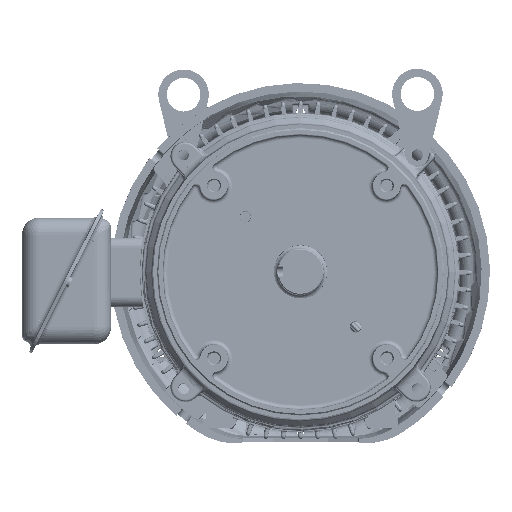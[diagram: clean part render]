
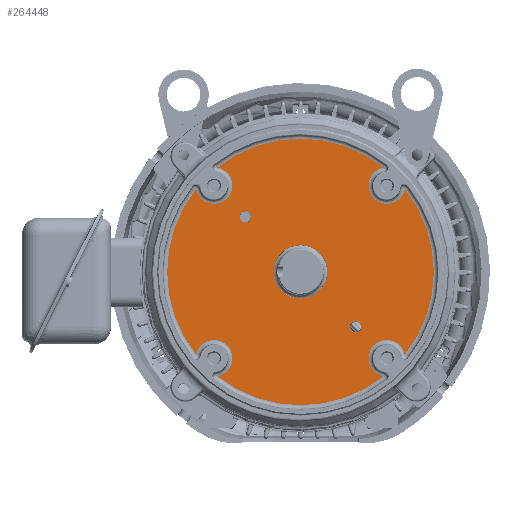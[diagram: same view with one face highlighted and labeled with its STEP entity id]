
A CAD part, top view. The second image highlights one B-rep face of the part: STEP entity #264448.
In plain terms, the highlighted planar face has unit normal (0, 0, 1) as drawn and (0, 0, -1) by its records, which use the part's own axes.
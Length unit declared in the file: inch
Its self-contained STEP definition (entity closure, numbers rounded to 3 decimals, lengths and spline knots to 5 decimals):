
#247599=CARTESIAN_POINT('',(-1.63518,-1.63518,-1.391));
#247600=DIRECTION('',(0.,0.,1.));
#247601=DIRECTION('',(-1.,0.,0.));
#247602=AXIS2_PLACEMENT_3D('',#247599,#247600,#247601);
#247604=CARTESIAN_POINT('',(-1.63518,-1.63518,-1.391));
#247605=DIRECTION('',(0.,0.,1.));
#247606=DIRECTION('',(1.,0.,0.));
#247607=AXIS2_PLACEMENT_3D('',#247604,#247605,#247606);
#247609=CARTESIAN_POINT('',(1.63518,1.63518,-1.391));
#247610=DIRECTION('',(0.,0.,1.));
#247611=DIRECTION('',(-1.,0.,0.));
#247612=AXIS2_PLACEMENT_3D('',#247609,#247610,#247611);
#247614=CARTESIAN_POINT('',(1.63518,1.63518,-1.391));
#247615=DIRECTION('',(0.,0.,1.));
#247616=DIRECTION('',(1.,0.,0.));
#247617=AXIS2_PLACEMENT_3D('',#247614,#247615,#247616);
#247619=CARTESIAN_POINT('',(0.,0.,-1.391));
#247620=DIRECTION('',(0.,0.,1.));
#247621=DIRECTION('',(-1.,0.,0.));
#247622=AXIS2_PLACEMENT_3D('',#247619,#247620,#247621);
#247624=CARTESIAN_POINT('',(0.,0.,-1.391));
#247625=DIRECTION('',(0.,0.,1.));
#247626=DIRECTION('',(1.,0.,0.));
#247627=AXIS2_PLACEMENT_3D('',#247624,#247625,#247626);
#247639=CARTESIAN_POINT('',(0.,0.,-1.391));
#247640=DIRECTION('',(0.,0.,-1.));
#247641=DIRECTION('',(-0.782,-0.623,0.));
#247642=AXIS2_PLACEMENT_3D('',#247639,#247640,#247641);
#252307=CARTESIAN_POINT('',(0.,0.,-1.391));
#252308=DIRECTION('',(0.,0.,-1.));
#252309=DIRECTION('',(-0.623,0.782,0.));
#252310=AXIS2_PLACEMENT_3D('',#252307,#252308,#252309);
#252387=CARTESIAN_POINT('',(-2.56326,2.56326,-1.391));
#252388=DIRECTION('',(0.,0.,1.));
#252389=DIRECTION('',(-0.983,-0.182,0.));
#252390=AXIS2_PLACEMENT_3D('',#252387,#252388,#252389);
#252407=CARTESIAN_POINT('',(2.56326,2.56326,-1.391));
#252408=DIRECTION('',(0.,0.,1.));
#252409=DIRECTION('',(-0.182,0.983,0.));
#252410=AXIS2_PLACEMENT_3D('',#252407,#252408,#252409);
#252457=CARTESIAN_POINT('',(0.,0.,-1.391));
#252458=DIRECTION('',(0.,0.,-1.));
#252459=DIRECTION('',(0.782,0.623,0.));
#252460=AXIS2_PLACEMENT_3D('',#252457,#252458,#252459);
#252507=CARTESIAN_POINT('',(2.56326,-2.56326,-1.391));
#252508=DIRECTION('',(0.,0.,1.));
#252509=DIRECTION('',(0.983,0.182,0.));
#252510=AXIS2_PLACEMENT_3D('',#252507,#252508,#252509);
#252557=CARTESIAN_POINT('',(0.,0.,-1.391));
#252558=DIRECTION('',(0.,0.,-1.));
#252559=DIRECTION('',(0.623,-0.782,0.));
#252560=AXIS2_PLACEMENT_3D('',#252557,#252558,#252559);
#252607=CARTESIAN_POINT('',(-2.56326,-2.56326,-1.391));
#252608=DIRECTION('',(0.,0.,1.));
#252609=DIRECTION('',(0.182,-0.983,0.));
#252610=AXIS2_PLACEMENT_3D('',#252607,#252608,#252609);
#257713=CARTESIAN_POINT('',(-3.09683,-2.46469,-1.391));
#257714=CARTESIAN_POINT('',(-3.09683,2.46469,-1.391));
#257715=VERTEX_POINT('',#257713);
#257716=VERTEX_POINT('',#257714);
#257721=CARTESIAN_POINT('',(-2.46469,-3.09683,-1.391));
#257722=VERTEX_POINT('',#257721);
#257727=CARTESIAN_POINT('',(2.46469,-3.09683,-1.391));
#257728=VERTEX_POINT('',#257727);
#257733=CARTESIAN_POINT('',(3.09683,-2.46469,-1.391));
#257734=VERTEX_POINT('',#257733);
#257739=CARTESIAN_POINT('',(3.09683,2.46469,-1.391));
#257740=VERTEX_POINT('',#257739);
#257745=CARTESIAN_POINT('',(2.46469,3.09683,-1.391));
#257746=VERTEX_POINT('',#257745);
#257751=CARTESIAN_POINT('',(-2.46469,3.09683,-1.391));
#257752=VERTEX_POINT('',#257751);
#257806=CARTESIAN_POINT('',(-1.80668,-1.63518,-1.391));
#257807=CARTESIAN_POINT('',(-1.46368,-1.63518,-1.391));
#257808=VERTEX_POINT('',#257806);
#257809=VERTEX_POINT('',#257807);
#257814=CARTESIAN_POINT('',(1.46368,1.63518,-1.391));
#257815=CARTESIAN_POINT('',(1.80668,1.63518,-1.391));
#257816=VERTEX_POINT('',#257814);
#257817=VERTEX_POINT('',#257815);
#257850=CARTESIAN_POINT('',(-0.7925,0.,-1.391));
#257851=CARTESIAN_POINT('',(0.7925,0.,-1.391));
#257852=VERTEX_POINT('',#257850);
#257853=VERTEX_POINT('',#257851);
#264408=CARTESIAN_POINT('',(0.,0.,-1.391));
#264409=DIRECTION('',(0.,0.,-1.));
#264410=DIRECTION('',(1.,0.,0.));
#264411=AXIS2_PLACEMENT_3D('',#264408,#264409,#264410);
#264412=PLANE('',#264411);
#264414=ORIENTED_EDGE('',*,*,#264413,.F.);
#264416=ORIENTED_EDGE('',*,*,#264415,.F.);
#264418=ORIENTED_EDGE('',*,*,#264417,.F.);
#264420=ORIENTED_EDGE('',*,*,#264419,.F.);
#264422=ORIENTED_EDGE('',*,*,#264421,.F.);
#264424=ORIENTED_EDGE('',*,*,#264423,.F.);
#264426=ORIENTED_EDGE('',*,*,#264425,.F.);
#264428=ORIENTED_EDGE('',*,*,#264427,.F.);
#264429=EDGE_LOOP('',(#264414,#264416,#264418,#264420,#264422,#264424,#264426,
#264428));
#264430=FACE_OUTER_BOUND('',#264429,.F.);
#264432=ORIENTED_EDGE('',*,*,#264431,.F.);
#264434=ORIENTED_EDGE('',*,*,#264433,.F.);
#264435=EDGE_LOOP('',(#264432,#264434));
#264436=FACE_BOUND('',#264435,.F.);
#264437=ORIENTED_EDGE('',*,*,#264398,.F.);
#264439=ORIENTED_EDGE('',*,*,#264438,.F.);
#264440=EDGE_LOOP('',(#264437,#264439));
#264441=FACE_BOUND('',#264440,.F.);
#264443=ORIENTED_EDGE('',*,*,#264442,.F.);
#264445=ORIENTED_EDGE('',*,*,#264444,.F.);
#264446=EDGE_LOOP('',(#264443,#264445));
#264447=FACE_BOUND('',#264446,.F.);
#264448=ADVANCED_FACE('',(#264430,#264436,#264441,#264447),#264412,.T.);
#247603=CIRCLE('',#247602,0.1715);
#247608=CIRCLE('',#247607,0.1715);
#247613=CIRCLE('',#247612,0.1715);
#247618=CIRCLE('',#247617,0.1715);
#247623=CIRCLE('',#247622,0.7925);
#247628=CIRCLE('',#247627,0.7925);
#247643=CIRCLE('',#247642,3.95791);
#252311=CIRCLE('',#252310,3.95791);
#252391=CIRCLE('',#252390,0.54259);
#252411=CIRCLE('',#252410,0.54259);
#252461=CIRCLE('',#252460,3.95791);
#252511=CIRCLE('',#252510,0.54259);
#252561=CIRCLE('',#252560,3.95791);
#252611=CIRCLE('',#252610,0.54259);
#264398=EDGE_CURVE('',#257816,#257817,#247613,.T.);
#264413=EDGE_CURVE('',#257715,#257716,#247643,.T.);
#264415=EDGE_CURVE('',#257722,#257715,#252611,.T.);
#264417=EDGE_CURVE('',#257728,#257722,#252561,.T.);
#264419=EDGE_CURVE('',#257734,#257728,#252511,.T.);
#264421=EDGE_CURVE('',#257740,#257734,#252461,.T.);
#264423=EDGE_CURVE('',#257746,#257740,#252411,.T.);
#264425=EDGE_CURVE('',#257752,#257746,#252311,.T.);
#264427=EDGE_CURVE('',#257716,#257752,#252391,.T.);
#264431=EDGE_CURVE('',#257808,#257809,#247603,.T.);
#264433=EDGE_CURVE('',#257809,#257808,#247608,.T.);
#264438=EDGE_CURVE('',#257817,#257816,#247618,.T.);
#264442=EDGE_CURVE('',#257852,#257853,#247623,.T.);
#264444=EDGE_CURVE('',#257853,#257852,#247628,.T.);
